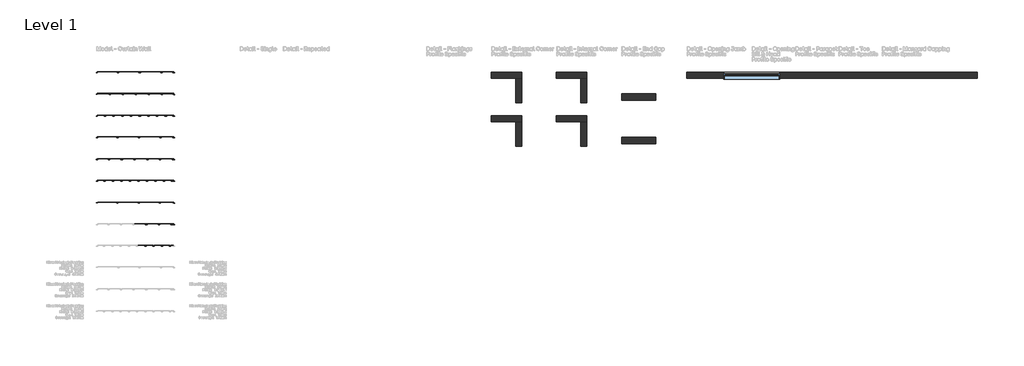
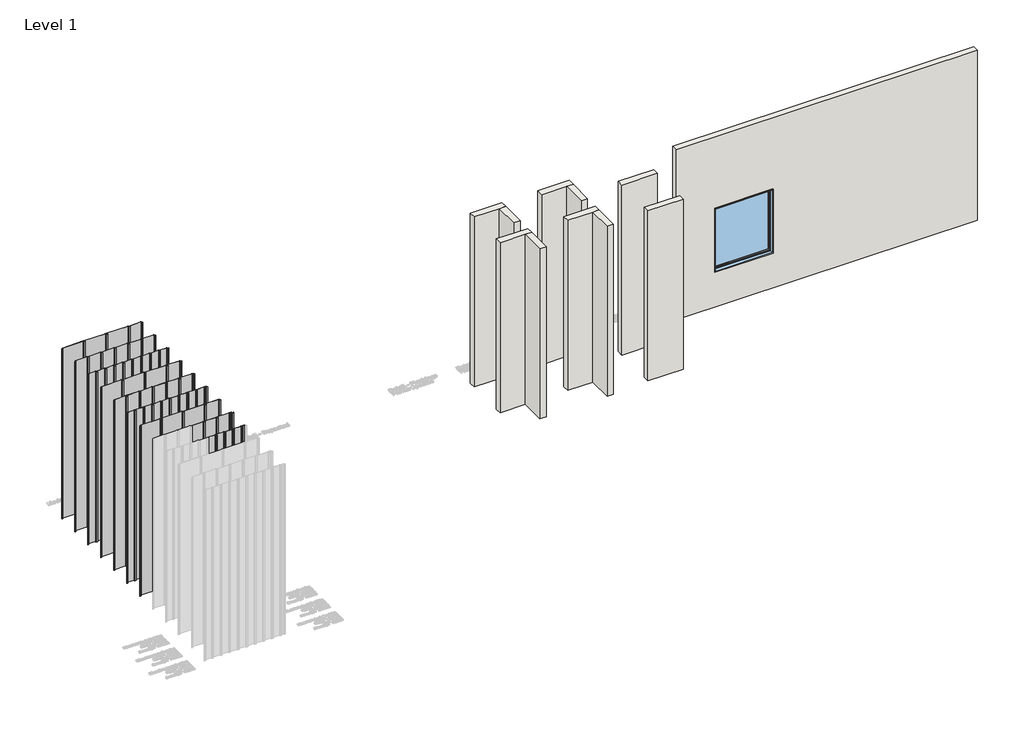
# One storey, part 3 of 64: 59 members, 53 plates, 11 walls, 1 window.
"""IFC4 building model written with IfcOpenShell, lengths in millimetres."""

from ifc_helpers import new_model, si_unit, frame, origin, origin_with_axes, place, context, project, spatial, polyline, outline, extrude, faceted_brep, transform, mapped, element, save
from components import rectangular_mullion_80ef18e3, rectangular_mullion_6b2adc9d, rectangular_mullion_0b61018c, rectangular_mullion_f2440827, rectangular_mullion_95a9d715, rectangular_mullion_8651af97, rectangular_mullion_c209810b, system_panel_a97800d8, system_panel_099fa51e, system_panel_b67cd40e, system_panel_544ca3a1, system_panel_c4768e52, system_panel_14b4a6d5, system_panel_ed8ddb89, system_panel_185952fe, system_panel_d50809be, system_panel_607e3a8e, system_panel_a3c6d02c, system_panel_34544f3b, system_panel_958ae2cc, system_panel_f4c263fd, system_panel_096fd5a5, system_panel_c1fad650, system_panel_f792b1a7, system_panel_48c66af6, system_panel_cfb51e1b, system_panel_4f88c502, system_panel_f4761d32, system_panel_6667fed8, system_panel_98b9b2bf, system_panel_ec0c27b4, fixed_1l_aus_1316_c28b4be6

model = new_model("IFC4")

# Units and contexts
model_context = context("Model", 3, world=origin())
ifc_project = project(units=[si_unit("LENGTHUNIT", "METRE", prefix="MILLI")], contexts=[model_context])

# Site, building, storey
site = spatial("IfcSite", under=ifc_project)
building = spatial("IfcBuilding", under=site)
storey = spatial("IfcBuildingStorey", under=building, Name="Level 1", Elevation=0.0)

# Members
placement = place(None, origin())
rectangular_mullion_shape = rectangular_mullion_80ef18e3(model_context)
element("IfcMember", 1, ObjectType="Rectangular Mullion : Stratco_Hiland_Interlock_Concealed Fix 15mm Gap_Intermediate", at=placement, inside=storey, context=model_context, shape_type="MappedRepresentation", body=[
    mapped(rectangular_mullion_shape, transform((1140.0000003, 1486.2714289, 0.0), x_axis=(1.0, 0.0, 0.0), y_axis=(0.0, -1.0, 0.0), z_axis=(0.0, 0.0, -1.0))),
])
element("IfcMember", 2, ObjectType="Rectangular Mullion : Stratco_Hiland_Interlock_Concealed Fix 15mm Gap_Intermediate", at=placement, inside=storey, context=model_context, shape_type="MappedRepresentation", body=[
    mapped(rectangular_mullion_shape, transform((1160.0000003, 1986.2714289, 0.0), x_axis=(1.0, 0.0, 0.0), y_axis=(0.0, -1.0, 0.0), z_axis=(0.0, 0.0, -1.0))),
])
element("IfcMember", 3, ObjectType="Rectangular Mullion : Stratco_Hiland_Interlock_Concealed Fix 15mm Gap_Intermediate", at=placement, inside=storey, context=model_context, shape_type="MappedRepresentation", body=[
    mapped(rectangular_mullion_shape, transform((1450.0000003, 1986.2714289, 0.0), x_axis=(1.0, 0.0, 0.0), y_axis=(0.0, -1.0, 0.0), z_axis=(0.0, 0.0, -1.0))),
])
element("IfcMember", 4, ObjectType="Rectangular Mullion : Stratco_Hiland_Interlock_Concealed Fix 15mm Gap_Intermediate", at=placement, inside=storey, context=model_context, shape_type="MappedRepresentation", body=[
    mapped(rectangular_mullion_shape, transform((1740.0000003, 1986.2714289, 0.0), x_axis=(1.0, 0.0, 0.0), y_axis=(0.0, -1.0, 0.0), z_axis=(0.0, 0.0, -1.0))),
])
element("IfcMember", 5, ObjectType="Rectangular Mullion : Stratco_Hiland_Interlock_Concealed Fix 15mm Gap_Intermediate", at=placement, inside=storey, context=model_context, shape_type="MappedRepresentation", body=[
    mapped(rectangular_mullion_shape, transform((490.0000003, 2486.2714289, 0.0), x_axis=(1.0, 0.0, 0.0), y_axis=(0.0, -1.0, 0.0), z_axis=(0.0, 0.0, -1.0))),
])
element("IfcMember", 6, ObjectType="Rectangular Mullion : Stratco_Hiland_Interlock_Concealed Fix 15mm Gap_Intermediate", at=placement, inside=storey, context=model_context, shape_type="MappedRepresentation", body=[
    mapped(rectangular_mullion_shape, transform((980.0000003, 2486.2714289, 0.0), x_axis=(1.0, 0.0, 0.0), y_axis=(0.0, -1.0, 0.0), z_axis=(0.0, 0.0, -1.0))),
])
element("IfcMember", 7, ObjectType="Rectangular Mullion : Stratco_Hiland_Interlock_Concealed Fix 15mm Gap_Intermediate", at=placement, inside=storey, context=model_context, shape_type="MappedRepresentation", body=[
    mapped(rectangular_mullion_shape, transform((1470.0000003, 2486.2714289, 0.0), x_axis=(1.0, 0.0, 0.0), y_axis=(0.0, -1.0, 0.0), z_axis=(0.0, 0.0, -1.0))),
])
element("IfcMember", 8, ObjectType="Rectangular Mullion : Stratco_Hiland_Interlock_Concealed Fix 15mm Gap_Intermediate", at=placement, inside=storey, context=model_context, shape_type="MappedRepresentation", body=[
    mapped(rectangular_mullion_shape, transform((1330.0000003, 1486.2714289, 0.0), x_axis=(1.0, 0.0, 0.0), y_axis=(0.0, -1.0, 0.0), z_axis=(0.0, 0.0, -1.0))),
])
element("IfcMember", 9, ObjectType="Rectangular Mullion : Stratco_Hiland_Interlock_Concealed Fix 15mm Gap_Intermediate", at=placement, inside=storey, context=model_context, shape_type="MappedRepresentation", body=[
    mapped(rectangular_mullion_shape, transform((1520.0000003, 1486.2714289, 0.0), x_axis=(1.0, 0.0, 0.0), y_axis=(0.0, -1.0, 0.0), z_axis=(0.0, 0.0, -1.0))),
])
element("IfcMember", 10, ObjectType="Rectangular Mullion : Stratco_Hiland_Interlock_Concealed Fix 15mm Gap_Intermediate", at=placement, inside=storey, context=model_context, shape_type="MappedRepresentation", body=[
    mapped(rectangular_mullion_shape, transform((1710.0000003, 1486.2714289, 0.0), x_axis=(1.0, 0.0, 0.0), y_axis=(0.0, -1.0, 0.0), z_axis=(0.0, 0.0, -1.0))),
])
rectangular_mullion_2_shape = rectangular_mullion_6b2adc9d(model_context)
element("IfcMember", 11, ObjectType="Rectangular Mullion : Stratco_Hiland_Interlock_Concealed Fix 15mm Gap_Female", at=placement, inside=storey, context=model_context, shape_type="MappedRepresentation", body=[
    mapped(rectangular_mullion_2_shape, transform((1800.0, 1986.2714289, 0.0), x_axis=(1.0, 0.0, 0.0), y_axis=(0.0, -1.0, 0.0), z_axis=(0.0, 0.0, -1.0))),
])
element("IfcMember", 12, ObjectType="Rectangular Mullion : Stratco_Hiland_Interlock_Concealed Fix 15mm Gap_Female", at=placement, inside=storey, context=model_context, shape_type="MappedRepresentation", body=[
    mapped(rectangular_mullion_2_shape, transform((1800.0, 2486.2714289, 0.0), x_axis=(1.0, 0.0, 0.0), y_axis=(0.0, -1.0, 0.0), z_axis=(0.0, 0.0, -1.0))),
])
rectangular_mullion_3_shape = rectangular_mullion_0b61018c(model_context)
element("IfcMember", 13, ObjectType="Rectangular Mullion : Stratco_Hiland_Interlock_Concealed Fix 15mm Gap_Male", at=placement, inside=storey, context=model_context, shape_type="MappedRepresentation", body=[
    mapped(rectangular_mullion_3_shape, transform((0.0, 2486.2714289, 4000.0), x_axis=(-1.0, 0.0, 0.0), y_axis=(0.0, -1.0, 0.0), z_axis=(0.0, 0.0, 1.0))),
])
rectangular_mullion_4_shape = rectangular_mullion_f2440827(model_context)
element("IfcMember", 14, ObjectType="Rectangular Mullion : Stratco_Hiland_Interlock_Concealed Fix 10mm Gap_Intermediate", at=placement, inside=storey, context=model_context, shape_type="MappedRepresentation", body=[
    mapped(rectangular_mullion_4_shape, transform((195.0000003, 2986.2714289, 0.0), x_axis=(1.0, 0.0, 0.0), y_axis=(0.0, -1.0, 0.0), z_axis=(0.0, 0.0, -1.0))),
])
element("IfcMember", 15, ObjectType="Rectangular Mullion : Stratco_Hiland_Interlock_Concealed Fix 10mm Gap_Intermediate", at=placement, inside=storey, context=model_context, shape_type="MappedRepresentation", body=[
    mapped(rectangular_mullion_4_shape, transform((390.0000003, 2986.2714289, 0.0), x_axis=(1.0, 0.0, 0.0), y_axis=(0.0, -1.0, 0.0), z_axis=(0.0, 0.0, -1.0))),
])
element("IfcMember", 16, ObjectType="Rectangular Mullion : Stratco_Hiland_Interlock_Concealed Fix 10mm Gap_Intermediate", at=placement, inside=storey, context=model_context, shape_type="MappedRepresentation", body=[
    mapped(rectangular_mullion_4_shape, transform((585.0000003, 2986.2714289, 0.0), x_axis=(1.0, 0.0, 0.0), y_axis=(0.0, -1.0, 0.0), z_axis=(0.0, 0.0, -1.0))),
])
element("IfcMember", 17, ObjectType="Rectangular Mullion : Stratco_Hiland_Interlock_Concealed Fix 10mm Gap_Intermediate", at=placement, inside=storey, context=model_context, shape_type="MappedRepresentation", body=[
    mapped(rectangular_mullion_4_shape, transform((780.0000003, 2986.2714289, 0.0), x_axis=(1.0, 0.0, 0.0), y_axis=(0.0, -1.0, 0.0), z_axis=(0.0, 0.0, -1.0))),
])
element("IfcMember", 18, ObjectType="Rectangular Mullion : Stratco_Hiland_Interlock_Concealed Fix 10mm Gap_Intermediate", at=placement, inside=storey, context=model_context, shape_type="MappedRepresentation", body=[
    mapped(rectangular_mullion_4_shape, transform((975.0000003, 2986.2714289, 0.0), x_axis=(1.0, 0.0, 0.0), y_axis=(0.0, -1.0, 0.0), z_axis=(0.0, 0.0, -1.0))),
])
element("IfcMember", 19, ObjectType="Rectangular Mullion : Stratco_Hiland_Interlock_Concealed Fix 10mm Gap_Intermediate", at=placement, inside=storey, context=model_context, shape_type="MappedRepresentation", body=[
    mapped(rectangular_mullion_4_shape, transform((1170.0000003, 2986.2714289, 0.0), x_axis=(1.0, 0.0, 0.0), y_axis=(0.0, -1.0, 0.0), z_axis=(0.0, 0.0, -1.0))),
])
element("IfcMember", 20, ObjectType="Rectangular Mullion : Stratco_Hiland_Interlock_Concealed Fix 10mm Gap_Intermediate", at=placement, inside=storey, context=model_context, shape_type="MappedRepresentation", body=[
    mapped(rectangular_mullion_4_shape, transform((1365.0000003, 2986.2714289, 0.0), x_axis=(1.0, 0.0, 0.0), y_axis=(0.0, -1.0, 0.0), z_axis=(0.0, 0.0, -1.0))),
])
element("IfcMember", 21, ObjectType="Rectangular Mullion : Stratco_Hiland_Interlock_Concealed Fix 10mm Gap_Intermediate", at=placement, inside=storey, context=model_context, shape_type="MappedRepresentation", body=[
    mapped(rectangular_mullion_4_shape, transform((1560.0000003, 2986.2714289, 0.0), x_axis=(1.0, 0.0, 0.0), y_axis=(0.0, -1.0, 0.0), z_axis=(0.0, 0.0, -1.0))),
])
element("IfcMember", 22, ObjectType="Rectangular Mullion : Stratco_Hiland_Interlock_Concealed Fix 10mm Gap_Intermediate", at=placement, inside=storey, context=model_context, shape_type="MappedRepresentation", body=[
    mapped(rectangular_mullion_4_shape, transform((1755.0000003, 2986.2714289, 0.0), x_axis=(1.0, 0.0, 0.0), y_axis=(0.0, -1.0, 0.0), z_axis=(0.0, 0.0, -1.0))),
])
element("IfcMember", 23, ObjectType="Rectangular Mullion : Stratco_Hiland_Interlock_Concealed Fix 10mm Gap_Intermediate", at=placement, inside=storey, context=model_context, shape_type="MappedRepresentation", body=[
    mapped(rectangular_mullion_4_shape, transform((295.0000003, 3486.2714289, 0.0), x_axis=(1.0, 0.0, 0.0), y_axis=(0.0, -1.0, 0.0), z_axis=(0.0, 0.0, -1.0))),
])
element("IfcMember", 24, ObjectType="Rectangular Mullion : Stratco_Hiland_Interlock_Concealed Fix 10mm Gap_Intermediate", at=placement, inside=storey, context=model_context, shape_type="MappedRepresentation", body=[
    mapped(rectangular_mullion_4_shape, transform((590.0000003, 3486.2714289, 0.0), x_axis=(1.0, 0.0, 0.0), y_axis=(0.0, -1.0, 0.0), z_axis=(0.0, 0.0, -1.0))),
])
element("IfcMember", 25, ObjectType="Rectangular Mullion : Stratco_Hiland_Interlock_Concealed Fix 10mm Gap_Intermediate", at=placement, inside=storey, context=model_context, shape_type="MappedRepresentation", body=[
    mapped(rectangular_mullion_4_shape, transform((885.0000003, 3486.2714289, 0.0), x_axis=(1.0, 0.0, 0.0), y_axis=(0.0, -1.0, 0.0), z_axis=(0.0, 0.0, -1.0))),
])
element("IfcMember", 26, ObjectType="Rectangular Mullion : Stratco_Hiland_Interlock_Concealed Fix 10mm Gap_Intermediate", at=placement, inside=storey, context=model_context, shape_type="MappedRepresentation", body=[
    mapped(rectangular_mullion_4_shape, transform((1180.0000003, 3486.2714289, 0.0), x_axis=(1.0, 0.0, 0.0), y_axis=(0.0, -1.0, 0.0), z_axis=(0.0, 0.0, -1.0))),
])
element("IfcMember", 27, ObjectType="Rectangular Mullion : Stratco_Hiland_Interlock_Concealed Fix 10mm Gap_Intermediate", at=placement, inside=storey, context=model_context, shape_type="MappedRepresentation", body=[
    mapped(rectangular_mullion_4_shape, transform((1475.0000003, 3486.2714289, 0.0), x_axis=(1.0, 0.0, 0.0), y_axis=(0.0, -1.0, 0.0), z_axis=(0.0, 0.0, -1.0))),
])
element("IfcMember", 28, ObjectType="Rectangular Mullion : Stratco_Hiland_Interlock_Concealed Fix 10mm Gap_Intermediate", at=placement, inside=storey, context=model_context, shape_type="MappedRepresentation", body=[
    mapped(rectangular_mullion_4_shape, transform((1770.0000003, 3486.2714289, 0.0), x_axis=(1.0, 0.0, 0.0), y_axis=(0.0, -1.0, 0.0), z_axis=(0.0, 0.0, -1.0))),
])
element("IfcMember", 29, ObjectType="Rectangular Mullion : Stratco_Hiland_Interlock_Concealed Fix 10mm Gap_Intermediate", at=placement, inside=storey, context=model_context, shape_type="MappedRepresentation", body=[
    mapped(rectangular_mullion_4_shape, transform((495.0000003, 3986.2714289, 0.0), x_axis=(1.0, 0.0, 0.0), y_axis=(0.0, -1.0, 0.0), z_axis=(0.0, 0.0, -1.0))),
])
element("IfcMember", 30, ObjectType="Rectangular Mullion : Stratco_Hiland_Interlock_Concealed Fix 10mm Gap_Intermediate", at=placement, inside=storey, context=model_context, shape_type="MappedRepresentation", body=[
    mapped(rectangular_mullion_4_shape, transform((990.0000003, 3986.2714289, 0.0), x_axis=(1.0, 0.0, 0.0), y_axis=(0.0, -1.0, 0.0), z_axis=(0.0, 0.0, -1.0))),
])
element("IfcMember", 31, ObjectType="Rectangular Mullion : Stratco_Hiland_Interlock_Concealed Fix 10mm Gap_Intermediate", at=placement, inside=storey, context=model_context, shape_type="MappedRepresentation", body=[
    mapped(rectangular_mullion_4_shape, transform((1485.0000003, 3986.2714289, 0.0), x_axis=(1.0, 0.0, 0.0), y_axis=(0.0, -1.0, 0.0), z_axis=(0.0, 0.0, -1.0))),
])
element("IfcMember", 32, ObjectType="Rectangular Mullion : Stratco_Hiland_Interlock_Concealed Fix 10mm Gap_Female", at=placement, inside=storey, context=model_context, shape_type="MappedRepresentation", body=[
    mapped(rectangular_mullion_2_shape, transform((1800.0, 2986.2714289, 0.0), x_axis=(1.0, 0.0, 0.0), y_axis=(0.0, -1.0, 0.0), z_axis=(0.0, 0.0, -1.0))),
])
element("IfcMember", 33, ObjectType="Rectangular Mullion : Stratco_Hiland_Interlock_Concealed Fix 10mm Gap_Female", at=placement, inside=storey, context=model_context, shape_type="MappedRepresentation", body=[
    mapped(rectangular_mullion_2_shape, transform((1800.0, 3486.2714289, 0.0), x_axis=(1.0, 0.0, 0.0), y_axis=(0.0, -1.0, 0.0), z_axis=(0.0, 0.0, -1.0))),
])
element("IfcMember", 34, ObjectType="Rectangular Mullion : Stratco_Hiland_Interlock_Concealed Fix 10mm Gap_Female", at=placement, inside=storey, context=model_context, shape_type="MappedRepresentation", body=[
    mapped(rectangular_mullion_2_shape, transform((1800.0, 3986.2714289, 0.0), x_axis=(1.0, 0.0, 0.0), y_axis=(0.0, -1.0, 0.0), z_axis=(0.0, 0.0, -1.0))),
])
rectangular_mullion_5_shape = rectangular_mullion_95a9d715(model_context)
element("IfcMember", 35, ObjectType="Rectangular Mullion : Stratco_Hiland_Interlock_Concealed Fix 10mm Gap_Male", at=placement, inside=storey, context=model_context, shape_type="MappedRepresentation", body=[
    mapped(rectangular_mullion_5_shape, transform((0.0, 2986.2714289, 4000.0), x_axis=(-1.0, 0.0, 0.0), y_axis=(0.0, -1.0, 0.0), z_axis=(0.0, 0.0, 1.0))),
])
element("IfcMember", 36, ObjectType="Rectangular Mullion : Stratco_Hiland_Interlock_Concealed Fix 10mm Gap_Male", at=placement, inside=storey, context=model_context, shape_type="MappedRepresentation", body=[
    mapped(rectangular_mullion_5_shape, transform((0.0, 3486.2714289, 4000.0), x_axis=(-1.0, 0.0, 0.0), y_axis=(0.0, -1.0, 0.0), z_axis=(0.0, 0.0, 1.0))),
])
element("IfcMember", 37, ObjectType="Rectangular Mullion : Stratco_Hiland_Interlock_Concealed Fix 10mm Gap_Male", at=placement, inside=storey, context=model_context, shape_type="MappedRepresentation", body=[
    mapped(rectangular_mullion_5_shape, transform((0.0, 3986.2714289, 4000.0), x_axis=(-1.0, 0.0, 0.0), y_axis=(0.0, -1.0, 0.0), z_axis=(0.0, 0.0, 1.0))),
])
rectangular_mullion_6_shape = rectangular_mullion_8651af97(model_context)
element("IfcMember", 38, ObjectType="Rectangular Mullion : Stratco_Hiland_Interlock_Concealed Fix 5mm Gap_Intermediate", at=placement, inside=storey, context=model_context, shape_type="MappedRepresentation", body=[
    mapped(rectangular_mullion_6_shape, transform((200.0000003, 4486.2714289, 0.0), x_axis=(1.0, 0.0, 0.0), y_axis=(0.0, -1.0, 0.0), z_axis=(0.0, 0.0, -1.0))),
])
element("IfcMember", 39, ObjectType="Rectangular Mullion : Stratco_Hiland_Interlock_Concealed Fix 5mm Gap_Intermediate", at=placement, inside=storey, context=model_context, shape_type="MappedRepresentation", body=[
    mapped(rectangular_mullion_6_shape, transform((400.0000003, 4486.2714289, 0.0), x_axis=(1.0, 0.0, 0.0), y_axis=(0.0, -1.0, 0.0), z_axis=(0.0, 0.0, -1.0))),
])
element("IfcMember", 40, ObjectType="Rectangular Mullion : Stratco_Hiland_Interlock_Concealed Fix 5mm Gap_Intermediate", at=placement, inside=storey, context=model_context, shape_type="MappedRepresentation", body=[
    mapped(rectangular_mullion_6_shape, transform((600.0000003, 4486.2714289, 0.0), x_axis=(1.0, 0.0, 0.0), y_axis=(0.0, -1.0, 0.0), z_axis=(0.0, 0.0, -1.0))),
])
element("IfcMember", 41, ObjectType="Rectangular Mullion : Stratco_Hiland_Interlock_Concealed Fix 5mm Gap_Intermediate", at=placement, inside=storey, context=model_context, shape_type="MappedRepresentation", body=[
    mapped(rectangular_mullion_6_shape, transform((800.0000003, 4486.2714289, 0.0), x_axis=(1.0, 0.0, 0.0), y_axis=(0.0, -1.0, 0.0), z_axis=(0.0, 0.0, -1.0))),
])
element("IfcMember", 42, ObjectType="Rectangular Mullion : Stratco_Hiland_Interlock_Concealed Fix 5mm Gap_Intermediate", at=placement, inside=storey, context=model_context, shape_type="MappedRepresentation", body=[
    mapped(rectangular_mullion_6_shape, transform((1000.0000003, 4486.2714289, 0.0), x_axis=(1.0, 0.0, 0.0), y_axis=(0.0, -1.0, 0.0), z_axis=(0.0, 0.0, -1.0))),
])
element("IfcMember", 43, ObjectType="Rectangular Mullion : Stratco_Hiland_Interlock_Concealed Fix 5mm Gap_Intermediate", at=placement, inside=storey, context=model_context, shape_type="MappedRepresentation", body=[
    mapped(rectangular_mullion_6_shape, transform((1200.0000003, 4486.2714289, 0.0), x_axis=(1.0, 0.0, 0.0), y_axis=(0.0, -1.0, 0.0), z_axis=(0.0, 0.0, -1.0))),
])
element("IfcMember", 44, ObjectType="Rectangular Mullion : Stratco_Hiland_Interlock_Concealed Fix 5mm Gap_Intermediate", at=placement, inside=storey, context=model_context, shape_type="MappedRepresentation", body=[
    mapped(rectangular_mullion_6_shape, transform((1400.0000003, 4486.2714289, 0.0), x_axis=(1.0, 0.0, 0.0), y_axis=(0.0, -1.0, 0.0), z_axis=(0.0, 0.0, -1.0))),
])
element("IfcMember", 45, ObjectType="Rectangular Mullion : Stratco_Hiland_Interlock_Concealed Fix 5mm Gap_Intermediate", at=placement, inside=storey, context=model_context, shape_type="MappedRepresentation", body=[
    mapped(rectangular_mullion_6_shape, transform((1600.0000003, 4486.2714289, 0.0), x_axis=(1.0, 0.0, 0.0), y_axis=(0.0, -1.0, 0.0), z_axis=(0.0, 0.0, -1.0))),
])
element("IfcMember", 46, ObjectType="Rectangular Mullion : Stratco_Hiland_Interlock_Concealed Fix 5mm Gap_Intermediate", at=placement, inside=storey, context=model_context, shape_type="MappedRepresentation", body=[
    mapped(rectangular_mullion_6_shape, transform((300.0000003, 4986.2714289, 0.0), x_axis=(1.0, 0.0, 0.0), y_axis=(0.0, -1.0, 0.0), z_axis=(0.0, 0.0, -1.0))),
])
element("IfcMember", 47, ObjectType="Rectangular Mullion : Stratco_Hiland_Interlock_Concealed Fix 5mm Gap_Intermediate", at=placement, inside=storey, context=model_context, shape_type="MappedRepresentation", body=[
    mapped(rectangular_mullion_6_shape, transform((600.0000003, 4986.2714289, 0.0), x_axis=(1.0, 0.0, 0.0), y_axis=(0.0, -1.0, 0.0), z_axis=(0.0, 0.0, -1.0))),
])
element("IfcMember", 48, ObjectType="Rectangular Mullion : Stratco_Hiland_Interlock_Concealed Fix 5mm Gap_Intermediate", at=placement, inside=storey, context=model_context, shape_type="MappedRepresentation", body=[
    mapped(rectangular_mullion_6_shape, transform((900.0000003, 4986.2714289, 0.0), x_axis=(1.0, 0.0, 0.0), y_axis=(0.0, -1.0, 0.0), z_axis=(0.0, 0.0, -1.0))),
])
element("IfcMember", 49, ObjectType="Rectangular Mullion : Stratco_Hiland_Interlock_Concealed Fix 5mm Gap_Intermediate", at=placement, inside=storey, context=model_context, shape_type="MappedRepresentation", body=[
    mapped(rectangular_mullion_6_shape, transform((1200.0000003, 4986.2714289, 0.0), x_axis=(1.0, 0.0, 0.0), y_axis=(0.0, -1.0, 0.0), z_axis=(0.0, 0.0, -1.0))),
])
element("IfcMember", 50, ObjectType="Rectangular Mullion : Stratco_Hiland_Interlock_Concealed Fix 5mm Gap_Intermediate", at=placement, inside=storey, context=model_context, shape_type="MappedRepresentation", body=[
    mapped(rectangular_mullion_6_shape, transform((1500.0000003, 4986.2714289, 0.0), x_axis=(1.0, 0.0, 0.0), y_axis=(0.0, -1.0, 0.0), z_axis=(0.0, 0.0, -1.0))),
])
element("IfcMember", 51, ObjectType="Rectangular Mullion : Stratco_Hiland_Interlock_Concealed Fix 5mm Gap_Intermediate", at=placement, inside=storey, context=model_context, shape_type="MappedRepresentation", body=[
    mapped(rectangular_mullion_6_shape, transform((500.0000003, 5486.2714289, 0.0), x_axis=(1.0, 0.0, 0.0), y_axis=(0.0, -1.0, 0.0), z_axis=(0.0, 0.0, -1.0))),
])
element("IfcMember", 52, ObjectType="Rectangular Mullion : Stratco_Hiland_Interlock_Concealed Fix 5mm Gap_Intermediate", at=placement, inside=storey, context=model_context, shape_type="MappedRepresentation", body=[
    mapped(rectangular_mullion_6_shape, transform((1000.0000003, 5486.2714289, 0.0), x_axis=(1.0, 0.0, 0.0), y_axis=(0.0, -1.0, 0.0), z_axis=(0.0, 0.0, -1.0))),
])
element("IfcMember", 53, ObjectType="Rectangular Mullion : Stratco_Hiland_Interlock_Concealed Fix 5mm Gap_Intermediate", at=placement, inside=storey, context=model_context, shape_type="MappedRepresentation", body=[
    mapped(rectangular_mullion_6_shape, transform((1500.0000003, 5486.2714289, 0.0), x_axis=(1.0, 0.0, 0.0), y_axis=(0.0, -1.0, 0.0), z_axis=(0.0, 0.0, -1.0))),
])
element("IfcMember", 54, ObjectType="Rectangular Mullion : Stratco_Hiland_Interlock_Concealed Fix 5mm Gap_Female", at=placement, inside=storey, context=model_context, shape_type="MappedRepresentation", body=[
    mapped(rectangular_mullion_2_shape, transform((1800.0, 4486.2714289, 0.0), x_axis=(1.0, 0.0, 0.0), y_axis=(0.0, -1.0, 0.0), z_axis=(0.0, 0.0, -1.0))),
])
element("IfcMember", 55, ObjectType="Rectangular Mullion : Stratco_Hiland_Interlock_Concealed Fix 5mm Gap_Female", at=placement, inside=storey, context=model_context, shape_type="MappedRepresentation", body=[
    mapped(rectangular_mullion_2_shape, transform((1800.0, 4986.2714289, 0.0), x_axis=(1.0, 0.0, 0.0), y_axis=(0.0, -1.0, 0.0), z_axis=(0.0, 0.0, -1.0))),
])
element("IfcMember", 56, ObjectType="Rectangular Mullion : Stratco_Hiland_Interlock_Concealed Fix 5mm Gap_Female", at=placement, inside=storey, context=model_context, shape_type="MappedRepresentation", body=[
    mapped(rectangular_mullion_2_shape, transform((1800.0, 5486.2714289, 0.0), x_axis=(1.0, 0.0, 0.0), y_axis=(0.0, -1.0, 0.0), z_axis=(0.0, 0.0, -1.0))),
])
rectangular_mullion_7_shape = rectangular_mullion_c209810b(model_context)
element("IfcMember", 57, ObjectType="Rectangular Mullion : Stratco_Hiland_Interlock_Concealed Fix 5mm Gap_Male", at=placement, inside=storey, context=model_context, shape_type="MappedRepresentation", body=[
    mapped(rectangular_mullion_7_shape, transform((0.0, 4486.2714289, 4000.0), x_axis=(-1.0, 0.0, 0.0), y_axis=(0.0, -1.0, 0.0), z_axis=(0.0, 0.0, 1.0))),
])
element("IfcMember", 58, ObjectType="Rectangular Mullion : Stratco_Hiland_Interlock_Concealed Fix 5mm Gap_Male", at=placement, inside=storey, context=model_context, shape_type="MappedRepresentation", body=[
    mapped(rectangular_mullion_7_shape, transform((0.0, 4986.2714289, 4000.0), x_axis=(-1.0, 0.0, 0.0), y_axis=(0.0, -1.0, 0.0), z_axis=(0.0, 0.0, 1.0))),
])
element("IfcMember", 59, ObjectType="Rectangular Mullion : Stratco_Hiland_Interlock_Concealed Fix 5mm Gap_Male", at=placement, inside=storey, context=model_context, shape_type="MappedRepresentation", body=[
    mapped(rectangular_mullion_7_shape, transform((0.0, 5486.2714289, 4000.0), x_axis=(-1.0, 0.0, 0.0), y_axis=(0.0, -1.0, 0.0), z_axis=(0.0, 0.0, 1.0))),
])

# Plates
system_panel_shape = system_panel_a97800d8(model_context)
element("IfcPlate", 60, ObjectType="System Panel : Stratco_Hiland_Interlock_Panel", at=placement, inside=storey, context=model_context, shape_type="MappedRepresentation", body=[
    mapped(system_panel_shape, transform((1759.5000002, 1986.2714289, 0.0), x_axis=(1.0, 0.0, 0.0), y_axis=(0.0, 1.0, 0.0), z_axis=(0.0, 0.0, 1.0))),
])
system_panel_2_shape = system_panel_099fa51e(model_context)
element("IfcPlate", 61, ObjectType="System Panel : Stratco_Hiland_Interlock_Panel", at=placement, inside=storey, context=model_context, shape_type="MappedRepresentation", body=[
    mapped(system_panel_2_shape, transform((252.0485989, 2486.2714289, 0.0), x_axis=(1.0, 0.0, 0.0), y_axis=(0.0, 1.0, 0.0), z_axis=(0.0, 0.0, 1.0))),
])
system_panel_3_shape = system_panel_b67cd40e(model_context)
element("IfcPlate", 62, ObjectType="System Panel : Stratco_Hiland_Interlock_Panel", at=placement, inside=storey, context=model_context, shape_type="MappedRepresentation", body=[
    mapped(system_panel_3_shape, transform((1624.5000002, 2486.2714289, 0.0), x_axis=(1.0, 0.0, 0.0), y_axis=(0.0, 1.0, 0.0), z_axis=(0.0, 0.0, 1.0))),
])
system_panel_4_shape = system_panel_544ca3a1(model_context)
element("IfcPlate", 63, ObjectType="System Panel : Stratco_Hiland_Interlock_Panel", at=placement, inside=storey, context=model_context, shape_type="MappedRepresentation", body=[
    mapped(system_panel_4_shape, transform((104.5485989, 2986.2714289, 0.0), x_axis=(1.0, 0.0, 0.0), y_axis=(0.0, 1.0, 0.0), z_axis=(0.0, 0.0, 1.0))),
])
system_panel_5_shape = system_panel_c4768e52(model_context)
element("IfcPlate", 64, ObjectType="System Panel : Stratco_Hiland_Interlock_Panel", at=placement, inside=storey, context=model_context, shape_type="MappedRepresentation", body=[
    mapped(system_panel_5_shape, transform((1744.5000002, 1486.2714289, 0.0), x_axis=(1.0, 0.0, 0.0), y_axis=(0.0, 1.0, 0.0), z_axis=(0.0, 0.0, 1.0))),
])
system_panel_6_shape = system_panel_14b4a6d5(model_context)
element("IfcPlate", 65, ObjectType="System Panel : Stratco_Hiland_Interlock_Panel", at=placement, inside=storey, context=model_context, shape_type="MappedRepresentation", body=[
    mapped(system_panel_6_shape, transform((1767.0000002, 2986.2714289, 0.0), x_axis=(1.0, 0.0, 0.0), y_axis=(0.0, 1.0, 0.0), z_axis=(0.0, 0.0, 1.0))),
])
system_panel_7_shape = system_panel_ed8ddb89(model_context)
element("IfcPlate", 66, ObjectType="System Panel : Stratco_Hiland_Interlock_Panel", at=placement, inside=storey, context=model_context, shape_type="MappedRepresentation", body=[
    mapped(system_panel_7_shape, transform((154.5485989, 3486.2714289, 0.0), x_axis=(1.0, 0.0, 0.0), y_axis=(0.0, 1.0, 0.0), z_axis=(0.0, 0.0, 1.0))),
])
system_panel_8_shape = system_panel_185952fe(model_context)
element("IfcPlate", 67, ObjectType="System Panel : Stratco_Hiland_Interlock_Panel", at=placement, inside=storey, context=model_context, shape_type="MappedRepresentation", body=[
    mapped(system_panel_8_shape, transform((1774.5000002, 3486.2714289, 0.0), x_axis=(1.0, 0.0, 0.0), y_axis=(0.0, 1.0, 0.0), z_axis=(0.0, 0.0, 1.0))),
])
system_panel_9_shape = system_panel_d50809be(model_context)
element("IfcPlate", 68, ObjectType="System Panel : Stratco_Hiland_Interlock_Panel", at=placement, inside=storey, context=model_context, shape_type="MappedRepresentation", body=[
    mapped(system_panel_9_shape, transform((254.5485989, 3986.2714289, 0.0), x_axis=(1.0, 0.0, 0.0), y_axis=(0.0, 1.0, 0.0), z_axis=(0.0, 0.0, 1.0))),
])
system_panel_10_shape = system_panel_607e3a8e(model_context)
element("IfcPlate", 69, ObjectType="System Panel : Stratco_Hiland_Interlock_Panel", at=placement, inside=storey, context=model_context, shape_type="MappedRepresentation", body=[
    mapped(system_panel_10_shape, transform((1632.0000002, 3986.2714289, 0.0), x_axis=(1.0, 0.0, 0.0), y_axis=(0.0, 1.0, 0.0), z_axis=(0.0, 0.0, 1.0))),
])
system_panel_11_shape = system_panel_a3c6d02c(model_context)
element("IfcPlate", 70, ObjectType="System Panel : Stratco_Hiland_Interlock_Panel", at=placement, inside=storey, context=model_context, shape_type="MappedRepresentation", body=[
    mapped(system_panel_11_shape, transform((107.0485989, 4486.2714289, 0.0), x_axis=(1.0, 0.0, 0.0), y_axis=(0.0, 1.0, 0.0), z_axis=(0.0, 0.0, 1.0))),
])
system_panel_12_shape = system_panel_34544f3b(model_context)
element("IfcPlate", 71, ObjectType="System Panel : Stratco_Hiland_Interlock_Panel", at=placement, inside=storey, context=model_context, shape_type="MappedRepresentation", body=[
    mapped(system_panel_12_shape, transform((1689.5000002, 4486.2714289, 0.0), x_axis=(1.0, 0.0, 0.0), y_axis=(0.0, 1.0, 0.0), z_axis=(0.0, 0.0, 1.0))),
])
system_panel_13_shape = system_panel_958ae2cc(model_context)
element("IfcPlate", 72, ObjectType="System Panel : Stratco_Hiland_Interlock_Panel", at=placement, inside=storey, context=model_context, shape_type="MappedRepresentation", body=[
    mapped(system_panel_13_shape, transform((157.0485989, 4986.2714289, 0.0), x_axis=(1.0, 0.0, 0.0), y_axis=(0.0, 1.0, 0.0), z_axis=(0.0, 0.0, 1.0))),
])
system_panel_14_shape = system_panel_f4c263fd(model_context)
element("IfcPlate", 73, ObjectType="System Panel : Stratco_Hiland_Interlock_Panel", at=placement, inside=storey, context=model_context, shape_type="MappedRepresentation", body=[
    mapped(system_panel_14_shape, transform((1639.5000002, 4986.2714289, 0.0), x_axis=(1.0, 0.0, 0.0), y_axis=(0.0, 1.0, 0.0), z_axis=(0.0, 0.0, 1.0))),
])
element("IfcPlate", 74, ObjectType="System Panel : Stratco_Hiland_Interlock_Panel", at=placement, inside=storey, context=model_context, shape_type="MappedRepresentation", body=[
    mapped(system_panel_14_shape, transform((1639.5000002, 5486.2714289, 0.0), x_axis=(1.0, 0.0, 0.0), y_axis=(0.0, 1.0, 0.0), z_axis=(0.0, 0.0, 1.0))),
])
system_panel_15_shape = system_panel_096fd5a5(model_context)
element("IfcPlate", 75, ObjectType="System Panel : Stratco_Hiland_Interlock_Panel", at=placement, inside=storey, context=model_context, shape_type="MappedRepresentation", body=[
    mapped(system_panel_15_shape, transform((257.0485989, 5486.2714289, 0.0), x_axis=(1.0, 0.0, 0.0), y_axis=(0.0, 1.0, 0.0), z_axis=(0.0, 0.0, 1.0))),
])
system_panel_16_shape = system_panel_c1fad650(model_context)
element("IfcPlate", 76, ObjectType="System Panel : Stratco_Hiland_Interlock_Panel", at=placement, inside=storey, context=model_context, shape_type="MappedRepresentation", body=[
    mapped(system_panel_16_shape, transform((1037.5000003, 1486.2714289, 0.0), x_axis=(1.0, 0.0, 0.0), y_axis=(0.0, 1.0, 0.0), z_axis=(0.0, 0.0, 1.0))),
])
element("IfcPlate", 77, ObjectType="System Panel : Stratco_Hiland_Interlock_Panel", at=placement, inside=storey, context=model_context, shape_type="MappedRepresentation", body=[
    mapped(system_panel_16_shape, transform((1227.5000003, 1486.2714289, 0.0), x_axis=(1.0, 0.0, 0.0), y_axis=(0.0, 1.0, 0.0), z_axis=(0.0, 0.0, 1.0))),
])
element("IfcPlate", 78, ObjectType="System Panel : Stratco_Hiland_Interlock_Panel", at=placement, inside=storey, context=model_context, shape_type="MappedRepresentation", body=[
    mapped(system_panel_16_shape, transform((1417.5000003, 1486.2714289, 0.0), x_axis=(1.0, 0.0, 0.0), y_axis=(0.0, 1.0, 0.0), z_axis=(0.0, 0.0, 1.0))),
])
element("IfcPlate", 79, ObjectType="System Panel : Stratco_Hiland_Interlock_Panel", at=placement, inside=storey, context=model_context, shape_type="MappedRepresentation", body=[
    mapped(system_panel_16_shape, transform((1607.5000003, 1486.2714289, 0.0), x_axis=(1.0, 0.0, 0.0), y_axis=(0.0, 1.0, 0.0), z_axis=(0.0, 0.0, 1.0))),
])
system_panel_17_shape = system_panel_f792b1a7(model_context)
element("IfcPlate", 80, ObjectType="System Panel : Stratco_Hiland_Interlock_Panel", at=placement, inside=storey, context=model_context, shape_type="MappedRepresentation", body=[
    mapped(system_panel_17_shape, transform((1007.5000003, 1986.2714289, 0.0), x_axis=(1.0, 0.0, 0.0), y_axis=(0.0, 1.0, 0.0), z_axis=(0.0, 0.0, 1.0))),
])
element("IfcPlate", 81, ObjectType="System Panel : Stratco_Hiland_Interlock_Panel", at=placement, inside=storey, context=model_context, shape_type="MappedRepresentation", body=[
    mapped(system_panel_17_shape, transform((1297.5000003, 1986.2714289, 0.0), x_axis=(1.0, 0.0, 0.0), y_axis=(0.0, 1.0, 0.0), z_axis=(0.0, 0.0, 1.0))),
])
element("IfcPlate", 82, ObjectType="System Panel : Stratco_Hiland_Interlock_Panel", at=placement, inside=storey, context=model_context, shape_type="MappedRepresentation", body=[
    mapped(system_panel_17_shape, transform((1587.5000003, 1986.2714289, 0.0), x_axis=(1.0, 0.0, 0.0), y_axis=(0.0, 1.0, 0.0), z_axis=(0.0, 0.0, 1.0))),
])
system_panel_18_shape = system_panel_48c66af6(model_context)
element("IfcPlate", 83, ObjectType="System Panel : Stratco_Hiland_Interlock_Panel", at=placement, inside=storey, context=model_context, shape_type="MappedRepresentation", body=[
    mapped(system_panel_18_shape, transform((727.5000003, 2486.2714289, 0.0), x_axis=(1.0, 0.0, 0.0), y_axis=(0.0, 1.0, 0.0), z_axis=(0.0, 0.0, 1.0))),
])
element("IfcPlate", 84, ObjectType="System Panel : Stratco_Hiland_Interlock_Panel", at=placement, inside=storey, context=model_context, shape_type="MappedRepresentation", body=[
    mapped(system_panel_18_shape, transform((1217.5000003, 2486.2714289, 0.0), x_axis=(1.0, 0.0, 0.0), y_axis=(0.0, 1.0, 0.0), z_axis=(0.0, 0.0, 1.0))),
])
system_panel_19_shape = system_panel_cfb51e1b(model_context)
element("IfcPlate", 85, ObjectType="System Panel : Stratco_Hiland_Interlock_Panel", at=placement, inside=storey, context=model_context, shape_type="MappedRepresentation", body=[
    mapped(system_panel_19_shape, transform((287.5000003, 2986.2714289, 0.0), x_axis=(1.0, 0.0, 0.0), y_axis=(0.0, 1.0, 0.0), z_axis=(0.0, 0.0, 1.0))),
])
element("IfcPlate", 86, ObjectType="System Panel : Stratco_Hiland_Interlock_Panel", at=placement, inside=storey, context=model_context, shape_type="MappedRepresentation", body=[
    mapped(system_panel_19_shape, transform((482.5000003, 2986.2714289, 0.0), x_axis=(1.0, 0.0, 0.0), y_axis=(0.0, 1.0, 0.0), z_axis=(0.0, 0.0, 1.0))),
])
element("IfcPlate", 87, ObjectType="System Panel : Stratco_Hiland_Interlock_Panel", at=placement, inside=storey, context=model_context, shape_type="MappedRepresentation", body=[
    mapped(system_panel_19_shape, transform((677.5000003, 2986.2714289, 0.0), x_axis=(1.0, 0.0, 0.0), y_axis=(0.0, 1.0, 0.0), z_axis=(0.0, 0.0, 1.0))),
])
element("IfcPlate", 88, ObjectType="System Panel : Stratco_Hiland_Interlock_Panel", at=placement, inside=storey, context=model_context, shape_type="MappedRepresentation", body=[
    mapped(system_panel_19_shape, transform((872.5000003, 2986.2714289, 0.0), x_axis=(1.0, 0.0, 0.0), y_axis=(0.0, 1.0, 0.0), z_axis=(0.0, 0.0, 1.0))),
])
element("IfcPlate", 89, ObjectType="System Panel : Stratco_Hiland_Interlock_Panel", at=placement, inside=storey, context=model_context, shape_type="MappedRepresentation", body=[
    mapped(system_panel_19_shape, transform((1067.5000003, 2986.2714289, 0.0), x_axis=(1.0, 0.0, 0.0), y_axis=(0.0, 1.0, 0.0), z_axis=(0.0, 0.0, 1.0))),
])
element("IfcPlate", 90, ObjectType="System Panel : Stratco_Hiland_Interlock_Panel", at=placement, inside=storey, context=model_context, shape_type="MappedRepresentation", body=[
    mapped(system_panel_19_shape, transform((1262.5000003, 2986.2714289, 0.0), x_axis=(1.0, 0.0, 0.0), y_axis=(0.0, 1.0, 0.0), z_axis=(0.0, 0.0, 1.0))),
])
element("IfcPlate", 91, ObjectType="System Panel : Stratco_Hiland_Interlock_Panel", at=placement, inside=storey, context=model_context, shape_type="MappedRepresentation", body=[
    mapped(system_panel_19_shape, transform((1457.5000003, 2986.2714289, 0.0), x_axis=(1.0, 0.0, 0.0), y_axis=(0.0, 1.0, 0.0), z_axis=(0.0, 0.0, 1.0))),
])
element("IfcPlate", 92, ObjectType="System Panel : Stratco_Hiland_Interlock_Panel", at=placement, inside=storey, context=model_context, shape_type="MappedRepresentation", body=[
    mapped(system_panel_19_shape, transform((1652.5000003, 2986.2714289, 0.0), x_axis=(1.0, 0.0, 0.0), y_axis=(0.0, 1.0, 0.0), z_axis=(0.0, 0.0, 1.0))),
])
system_panel_20_shape = system_panel_4f88c502(model_context)
element("IfcPlate", 93, ObjectType="System Panel : Stratco_Hiland_Interlock_Panel", at=placement, inside=storey, context=model_context, shape_type="MappedRepresentation", body=[
    mapped(system_panel_20_shape, transform((437.5000003, 3486.2714289, 0.0), x_axis=(1.0, 0.0, 0.0), y_axis=(0.0, 1.0, 0.0), z_axis=(0.0, 0.0, 1.0))),
])
element("IfcPlate", 94, ObjectType="System Panel : Stratco_Hiland_Interlock_Panel", at=placement, inside=storey, context=model_context, shape_type="MappedRepresentation", body=[
    mapped(system_panel_20_shape, transform((732.5000003, 3486.2714289, 0.0), x_axis=(1.0, 0.0, 0.0), y_axis=(0.0, 1.0, 0.0), z_axis=(0.0, 0.0, 1.0))),
])
element("IfcPlate", 95, ObjectType="System Panel : Stratco_Hiland_Interlock_Panel", at=placement, inside=storey, context=model_context, shape_type="MappedRepresentation", body=[
    mapped(system_panel_20_shape, transform((1027.5000003, 3486.2714289, 0.0), x_axis=(1.0, 0.0, 0.0), y_axis=(0.0, 1.0, 0.0), z_axis=(0.0, 0.0, 1.0))),
])
element("IfcPlate", 96, ObjectType="System Panel : Stratco_Hiland_Interlock_Panel", at=placement, inside=storey, context=model_context, shape_type="MappedRepresentation", body=[
    mapped(system_panel_20_shape, transform((1322.5000003, 3486.2714289, 0.0), x_axis=(1.0, 0.0, 0.0), y_axis=(0.0, 1.0, 0.0), z_axis=(0.0, 0.0, 1.0))),
])
element("IfcPlate", 97, ObjectType="System Panel : Stratco_Hiland_Interlock_Panel", at=placement, inside=storey, context=model_context, shape_type="MappedRepresentation", body=[
    mapped(system_panel_20_shape, transform((1617.5000003, 3486.2714289, 0.0), x_axis=(1.0, 0.0, 0.0), y_axis=(0.0, 1.0, 0.0), z_axis=(0.0, 0.0, 1.0))),
])
system_panel_21_shape = system_panel_f4761d32(model_context)
element("IfcPlate", 98, ObjectType="System Panel : Stratco_Hiland_Interlock_Panel", at=placement, inside=storey, context=model_context, shape_type="MappedRepresentation", body=[
    mapped(system_panel_21_shape, transform((737.5000003, 3986.2714289, 0.0), x_axis=(1.0, 0.0, 0.0), y_axis=(0.0, 1.0, 0.0), z_axis=(0.0, 0.0, 1.0))),
])
element("IfcPlate", 99, ObjectType="System Panel : Stratco_Hiland_Interlock_Panel", at=placement, inside=storey, context=model_context, shape_type="MappedRepresentation", body=[
    mapped(system_panel_21_shape, transform((1232.5000003, 3986.2714289, 0.0), x_axis=(1.0, 0.0, 0.0), y_axis=(0.0, 1.0, 0.0), z_axis=(0.0, 0.0, 1.0))),
])
system_panel_22_shape = system_panel_6667fed8(model_context)
element("IfcPlate", 100, ObjectType="System Panel : Stratco_Hiland_Interlock_Panel", at=placement, inside=storey, context=model_context, shape_type="MappedRepresentation", body=[
    mapped(system_panel_22_shape, transform((297.5000003, 4486.2714289, 0.0), x_axis=(1.0, 0.0, 0.0), y_axis=(0.0, 1.0, 0.0), z_axis=(0.0, 0.0, 1.0))),
])
element("IfcPlate", 101, ObjectType="System Panel : Stratco_Hiland_Interlock_Panel", at=placement, inside=storey, context=model_context, shape_type="MappedRepresentation", body=[
    mapped(system_panel_22_shape, transform((497.5000003, 4486.2714289, 0.0), x_axis=(1.0, 0.0, 0.0), y_axis=(0.0, 1.0, 0.0), z_axis=(0.0, 0.0, 1.0))),
])
element("IfcPlate", 102, ObjectType="System Panel : Stratco_Hiland_Interlock_Panel", at=placement, inside=storey, context=model_context, shape_type="MappedRepresentation", body=[
    mapped(system_panel_22_shape, transform((697.5000003, 4486.2714289, 0.0), x_axis=(1.0, 0.0, 0.0), y_axis=(0.0, 1.0, 0.0), z_axis=(0.0, 0.0, 1.0))),
])
element("IfcPlate", 103, ObjectType="System Panel : Stratco_Hiland_Interlock_Panel", at=placement, inside=storey, context=model_context, shape_type="MappedRepresentation", body=[
    mapped(system_panel_22_shape, transform((897.5000003, 4486.2714289, 0.0), x_axis=(1.0, 0.0, 0.0), y_axis=(0.0, 1.0, 0.0), z_axis=(0.0, 0.0, 1.0))),
])
element("IfcPlate", 104, ObjectType="System Panel : Stratco_Hiland_Interlock_Panel", at=placement, inside=storey, context=model_context, shape_type="MappedRepresentation", body=[
    mapped(system_panel_22_shape, transform((1097.5000003, 4486.2714289, 0.0), x_axis=(1.0, 0.0, 0.0), y_axis=(0.0, 1.0, 0.0), z_axis=(0.0, 0.0, 1.0))),
])
element("IfcPlate", 105, ObjectType="System Panel : Stratco_Hiland_Interlock_Panel", at=placement, inside=storey, context=model_context, shape_type="MappedRepresentation", body=[
    mapped(system_panel_22_shape, transform((1297.5000003, 4486.2714289, 0.0), x_axis=(1.0, 0.0, 0.0), y_axis=(0.0, 1.0, 0.0), z_axis=(0.0, 0.0, 1.0))),
])
element("IfcPlate", 106, ObjectType="System Panel : Stratco_Hiland_Interlock_Panel", at=placement, inside=storey, context=model_context, shape_type="MappedRepresentation", body=[
    mapped(system_panel_22_shape, transform((1497.5000003, 4486.2714289, 0.0), x_axis=(1.0, 0.0, 0.0), y_axis=(0.0, 1.0, 0.0), z_axis=(0.0, 0.0, 1.0))),
])
system_panel_23_shape = system_panel_98b9b2bf(model_context)
element("IfcPlate", 107, ObjectType="System Panel : Stratco_Hiland_Interlock_Panel", at=placement, inside=storey, context=model_context, shape_type="MappedRepresentation", body=[
    mapped(system_panel_23_shape, transform((447.5000003, 4986.2714289, 0.0), x_axis=(1.0, 0.0, 0.0), y_axis=(0.0, 1.0, 0.0), z_axis=(0.0, 0.0, 1.0))),
])
element("IfcPlate", 108, ObjectType="System Panel : Stratco_Hiland_Interlock_Panel", at=placement, inside=storey, context=model_context, shape_type="MappedRepresentation", body=[
    mapped(system_panel_23_shape, transform((747.5000003, 4986.2714289, 0.0), x_axis=(1.0, 0.0, 0.0), y_axis=(0.0, 1.0, 0.0), z_axis=(0.0, 0.0, 1.0))),
])
element("IfcPlate", 109, ObjectType="System Panel : Stratco_Hiland_Interlock_Panel", at=placement, inside=storey, context=model_context, shape_type="MappedRepresentation", body=[
    mapped(system_panel_23_shape, transform((1047.5000003, 4986.2714289, 0.0), x_axis=(1.0, 0.0, 0.0), y_axis=(0.0, 1.0, 0.0), z_axis=(0.0, 0.0, 1.0))),
])
element("IfcPlate", 110, ObjectType="System Panel : Stratco_Hiland_Interlock_Panel", at=placement, inside=storey, context=model_context, shape_type="MappedRepresentation", body=[
    mapped(system_panel_23_shape, transform((1347.5000003, 4986.2714289, 0.0), x_axis=(1.0, 0.0, 0.0), y_axis=(0.0, 1.0, 0.0), z_axis=(0.0, 0.0, 1.0))),
])
system_panel_24_shape = system_panel_ec0c27b4(model_context)
element("IfcPlate", 111, ObjectType="System Panel : Stratco_Hiland_Interlock_Panel", at=placement, inside=storey, context=model_context, shape_type="MappedRepresentation", body=[
    mapped(system_panel_24_shape, transform((747.5000003, 5486.2714289, 0.0), x_axis=(1.0, 0.0, 0.0), y_axis=(0.0, 1.0, 0.0), z_axis=(0.0, 0.0, 1.0))),
])
element("IfcPlate", 112, ObjectType="System Panel : Stratco_Hiland_Interlock_Panel", at=placement, inside=storey, context=model_context, shape_type="MappedRepresentation", body=[
    mapped(system_panel_24_shape, transform((1247.5000003, 5486.2714289, 0.0), x_axis=(1.0, 0.0, 0.0), y_axis=(0.0, 1.0, 0.0), z_axis=(0.0, 0.0, 1.0))),
])

# Walls
element("IfcWall", 113, ObjectType="Exterior - Cladding, Batten, Membrane/ Thermal Break, Stud, Lining", at=placement, inside=storey, context=model_context, shape_type="Brep", body=[
    faceted_brep([(9100.0, 5358.0, 0.0), (9658.0, 5358.0, 0.0), (9800.0, 5358.0, 0.0), (9800.0, 5358.0, 4000.0), (9658.0, 5358.0, 4000.0), (9100.0, 5358.0, 4000.0), (9100.0, 5500.0, 0.0), (9100.0, 5500.0, 4000.0), (9800.0, 5500.0, 4000.0), (9800.0, 5500.0, 0.0)], [[[0, 1, 2, 3, 4, 5]], [[6, 7, 8, 9]], [[2, 1, 0, 6, 9]], [[5, 4, 3, 8, 7]], [[0, 5, 7, 6]], [[3, 2, 9, 8]]]),
])
element("IfcWall", 114, ObjectType="Exterior - Cladding, Batten, Membrane/ Thermal Break, Stud, Lining", at=placement, inside=storey, context=model_context, shape_type="SweptSolid", body=[
    extrude(outline(polyline([(9800.0, 5358.0), (9800.0, 4800.0), (9658.0, 4800.0), (9658.0, 5358.0), (9800.0, 5358.0)])), origin_with_axes(), (0.0, 0.0, 1.0), 4000.0),
])
element("IfcWall", 115, ObjectType="Exterior - Cladding, Batten, Membrane/ Thermal Break, Stud, Lining", at=placement, inside=storey, context=model_context, shape_type="Brep", body=[
    faceted_brep([(9100.0, 4358.0, 0.0), (9658.0, 4358.0, 0.0), (9800.0, 4358.0, 0.0), (9800.0, 4358.0, 4000.0), (9658.0, 4358.0, 4000.0), (9100.0, 4358.0, 4000.0), (9100.0, 4500.0, 0.0), (9100.0, 4500.0, 4000.0), (9800.0, 4500.0, 4000.0), (9800.0, 4500.0, 0.0)], [[[0, 1, 2, 3, 4, 5]], [[6, 7, 8, 9]], [[2, 1, 0, 6, 9]], [[5, 4, 3, 8, 7]], [[0, 5, 7, 6]], [[3, 2, 9, 8]]]),
])
element("IfcWall", 116, ObjectType="Exterior - Cladding, Batten, Membrane/ Thermal Break, Stud, Lining", at=placement, inside=storey, context=model_context, shape_type="SweptSolid", body=[
    extrude(outline(polyline([(9800.0, 4358.0), (9800.0, 3800.0), (9658.0, 3800.0), (9658.0, 4358.0), (9800.0, 4358.0)])), origin_with_axes(), (0.0, 0.0, 1.0), 4000.0),
])
element("IfcWall", 117, ObjectType="Exterior - Cladding, Batten, Membrane/ Thermal Break, Stud, Lining", at=placement, inside=storey, context=model_context, shape_type="Brep", body=[
    faceted_brep([(10600.0, 5358.0, 0.0), (11158.0, 5358.0, 0.0), (11300.0, 5358.0, 0.0), (11300.0, 5358.0, 4000.0), (11158.0, 5358.0, 4000.0), (10600.0, 5358.0, 4000.0), (10600.0, 5500.0, 0.0), (10600.0, 5500.0, 4000.0), (11300.0, 5500.0, 4000.0), (11300.0, 5500.0, 0.0)], [[[0, 1, 2, 3, 4, 5]], [[6, 7, 8, 9]], [[2, 1, 0, 6, 9]], [[5, 4, 3, 8, 7]], [[0, 5, 7, 6]], [[3, 2, 9, 8]]]),
])
element("IfcWall", 118, ObjectType="Exterior - Cladding, Batten, Membrane/ Thermal Break, Stud, Lining", at=placement, inside=storey, context=model_context, shape_type="SweptSolid", body=[
    extrude(outline(polyline([(11300.0, 5358.0), (11300.0, 4800.0), (11158.0, 4800.0), (11158.0, 5358.0), (11300.0, 5358.0)])), origin_with_axes(), (0.0, 0.0, 1.0), 4000.0),
])
element("IfcWall", 119, ObjectType="Exterior - Cladding, Batten, Membrane/ Thermal Break, Stud, Lining", at=placement, inside=storey, context=model_context, shape_type="Brep", body=[
    faceted_brep([(10600.0, 4358.0, 0.0), (11158.0, 4358.0, 0.0), (11300.0, 4358.0, 0.0), (11300.0, 4358.0, 4000.0), (11158.0, 4358.0, 4000.0), (10600.0, 4358.0, 4000.0), (10600.0, 4500.0, 0.0), (10600.0, 4500.0, 4000.0), (11300.0, 4500.0, 4000.0), (11300.0, 4500.0, 0.0)], [[[0, 1, 2, 3, 4, 5]], [[6, 7, 8, 9]], [[2, 1, 0, 6, 9]], [[5, 4, 3, 8, 7]], [[0, 5, 7, 6]], [[3, 2, 9, 8]]]),
])
element("IfcWall", 120, ObjectType="Exterior - Cladding, Batten, Membrane/ Thermal Break, Stud, Lining", at=placement, inside=storey, context=model_context, shape_type="SweptSolid", body=[
    extrude(outline(polyline([(11300.0, 4358.0), (11300.0, 3800.0), (11158.0, 3800.0), (11158.0, 4358.0), (11300.0, 4358.0)])), origin_with_axes(), (0.0, 0.0, 1.0), 4000.0),
])
element("IfcWall", 121, ObjectType="Exterior - Cladding, Batten, Membrane/ Thermal Break, Stud, Lining", at=placement, inside=storey, context=model_context, shape_type="SweptSolid", body=[
    extrude(outline(polyline([(12887.8074912, 4858.0), (12100.0, 4858.0), (12100.0, 5000.0), (12887.8074912, 5000.0), (12887.8074912, 4858.0)])), origin_with_axes(), (0.0, 0.0, 1.0), 4000.0),
])
element("IfcWall", 122, ObjectType="Exterior - Cladding, Batten, Membrane/ Thermal Break, Stud, Lining", at=placement, inside=storey, context=model_context, shape_type="SweptSolid", body=[
    extrude(outline(polyline([(0.0, 13600.0), (0.0, 20300.0), (4000.0, 20300.0), (4000.0, 13600.0), (0.0, 13600.0)]), holes=[polyline([(830.0, 14450.0), (2330.0, 14450.0), (2330.0, 15750.0), (830.0, 15750.0), (830.0, 14450.0)])]), frame((0.0, 5358.0, 0.0), z_axis=(0.0, 1.0, 0.0), x_axis=(0.0, 0.0, 1.0)), (0.0, 0.0, 1.0), 142.0),
])
element("IfcWall", 123, ObjectType="Exterior - Cladding, Batten, Membrane/ Thermal Break, Stud, Lining", at=placement, inside=storey, context=model_context, shape_type="SweptSolid", body=[
    extrude(outline(polyline([(12887.8074912, 3858.0), (12100.0, 3858.0), (12100.0, 4000.0), (12887.8074912, 4000.0), (12887.8074912, 3858.0)])), origin_with_axes(), (0.0, 0.0, 1.0), 4000.0),
])

# Window
fixed_1l_aus_1316_shape = fixed_1l_aus_1316_c28b4be6(model_context)
element("IfcWindow", 124, ObjectType="Fixed - 1L (AUS) : 1316", at=placement, inside=storey, context=model_context, shape_type="MappedRepresentation", body=[
    mapped(fixed_1l_aus_1316_shape, transform((15426.173759, 5429.0, -70.0), x_axis=(-1.0, 0.0, 0.0), y_axis=(0.0, -1.0, 0.0), z_axis=(0.0, 0.0, 1.0))),
])

save(model, "model.ifc")
